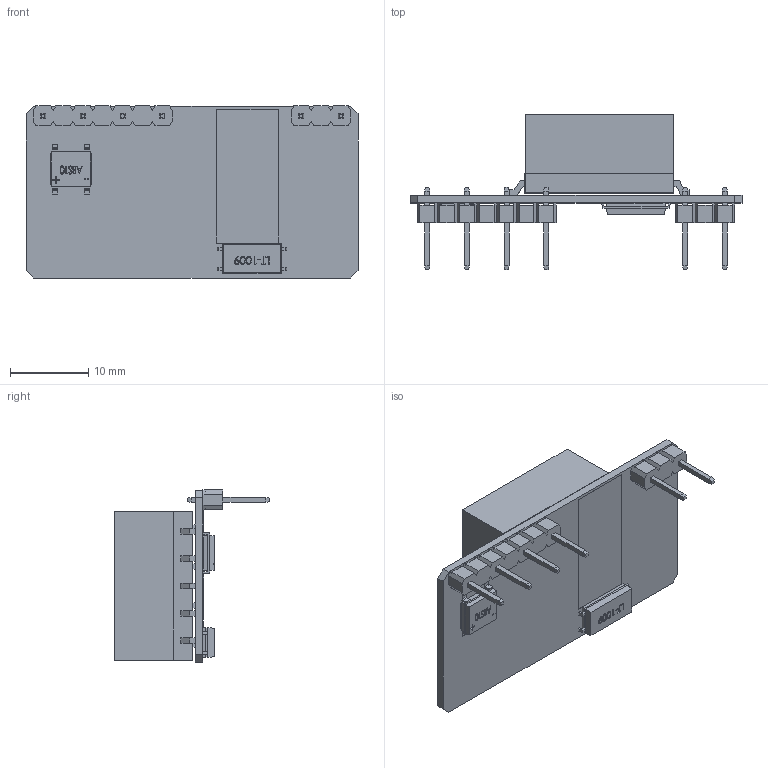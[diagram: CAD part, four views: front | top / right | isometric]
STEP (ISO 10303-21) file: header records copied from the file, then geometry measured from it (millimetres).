
FILE_DESCRIPTION (( 'STEP AP214' ), '1' );
FILE_NAME ('PSO15-X-B.STEP', '2026-01-30T08:48:41', ( '' ), ( '' ), 'SwSTEP 2.0', 'SolidWorks 2012', '' );
FILE_SCHEMA (( 'AUTOMOTIVE_DESIGN' ));
Length unit declared in the file: millimetre
Products named in the file (7): PSO15-X-B; S70-04900-00200_SOP-4_LTV-1009; 033-25081-00100; 100-63015-00100; ABS10; 033-25081-00200; S80-43015-001
Assembly tree (6 placements, depth 2):
  PSO15-X-B
    100-63015-00100
    033-25081-00100
    033-25081-00200
    S80-43015-001
    ABS10
    S70-04900-00200_SOP-4_LTV-1009
Bounding box: 42.5 x 19.89 x 22.02 mm (x, y, z)
Volume: 4821.2 mm3; surface area: 5333.8 mm2
Topology: 18 solids, 18 shells, 656 faces, 1625 edges, 1046 vertices
Faces by surface type: plane 580, bspline 60, cylinder 16
Entity records: 24901 total; most frequent: CARTESIAN_POINT 7508, ORIENTED_EDGE 3250, DIRECTION 2747, EDGE_CURVE 1625, VECTOR 1473, LINE 1473, VERTEX_POINT 1046, EDGE_LOOP 709
